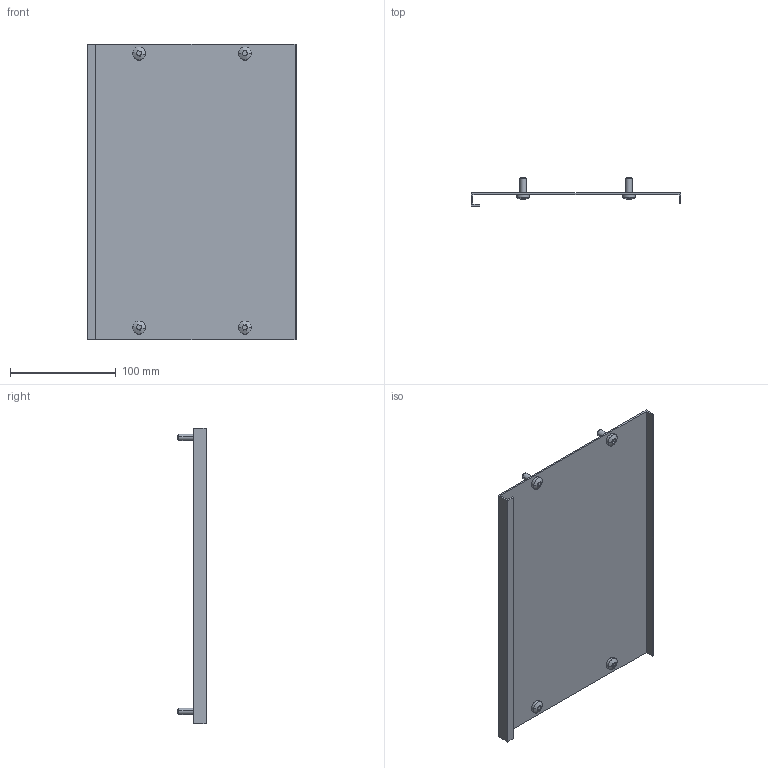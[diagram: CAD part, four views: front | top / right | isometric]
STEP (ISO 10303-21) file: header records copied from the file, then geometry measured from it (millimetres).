
FILE_DESCRIPTION (( 'STEP AP214' ), '1' );
FILE_NAME ('FO-00-PVS-020-040 Ïëàñòðîí ãëóõîé âíóòðåííèé 200õ400.STEP', '2025-09-29T19:20:40', ( '' ), ( '' ), 'SwSTEP 2.0', 'SolidWorks 2023', '' );
FILE_SCHEMA (( 'AUTOMOTIVE_DESIGN' ));
Length unit declared in the file: millimetre
Products named in the file (3): FO-00-PVS-020-040 Пластрон глухой внутренний 200х400; Винт M6x16 20-040 IEK
Assembly tree (3 placements, depth 2):
  FO-00-PVS-020-040 Пластрон глухой внутренний 200х400
    FO-00-PVS-020-040 Пластрон глухой внутренний 200х400
    Винт M6x16 20-040 IEK  x2
Bounding box: 198 x 27 x 279 mm (x, y, z)
Volume: 96588.5 mm3; surface area: 128883.5 mm2
Topology: 5 solids, 5 shells, 150 faces, 392 edges, 256 vertices
Faces by surface type: cylinder 88, plane 42, cone 12, bspline 8
Entity records: 3233 total; most frequent: CARTESIAN_POINT 724, ORIENTED_EDGE 512, DIRECTION 500, EDGE_CURVE 256, AXIS2_PLACEMENT_3D 180, VERTEX_POINT 168, LINE 140, VECTOR 140
